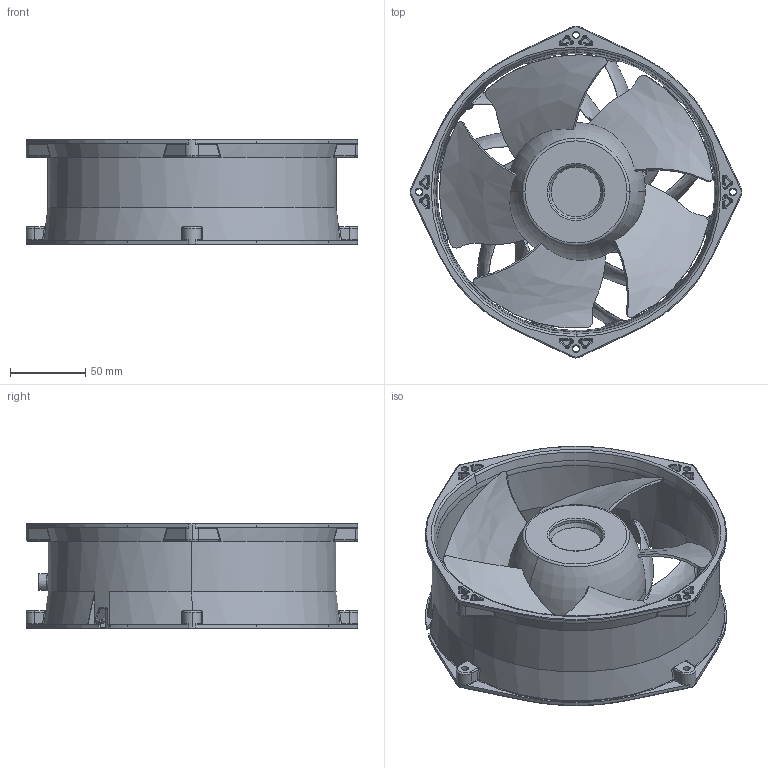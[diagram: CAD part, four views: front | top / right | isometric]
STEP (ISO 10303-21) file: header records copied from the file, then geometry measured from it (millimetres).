
FILE_DESCRIPTION (( 'STEP AP214' ), '1' );
FILE_NAME ('20070GA_RIBLESS.STEP', '2025-02-06T08:35:35', ( '' ), ( '' ), 'SwSTEP 2.0', 'SolidWorks 2022', '' );
FILE_SCHEMA (( 'AUTOMOTIVE_DESIGN' ));
Length unit declared in the file: millimetre
Products named in the file (1): 20070GA_RIBLESS
Bounding box: 220 x 220 x 70 mm (x, y, z)
Volume: 608659.7 mm3; surface area: 198798.7 mm2
Topology: 1 solids, 1 shells, 1496 faces, 3876 edges, 2370 vertices
Faces by surface type: bspline 627, plane 331, torus 235, cylinder 162, cone 134, sphere 7
Entity records: 78305 total; most frequent: CARTESIAN_POINT 46885, ORIENTED_EDGE 7698, DIRECTION 5194, EDGE_CURVE 3849, VERTEX_POINT 2368, AXIS2_PLACEMENT_3D 2271, B_SPLINE_CURVE_WITH_KNOTS 1686, EDGE_LOOP 1549
